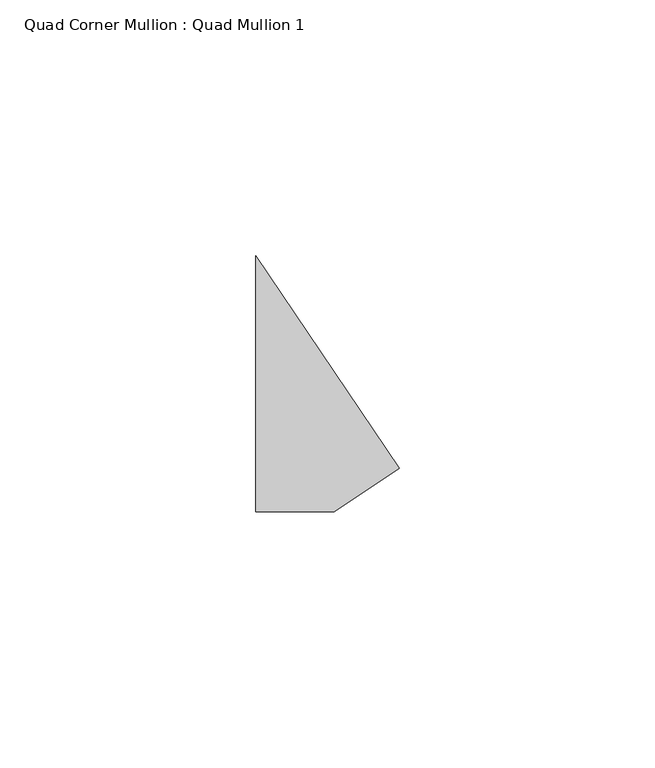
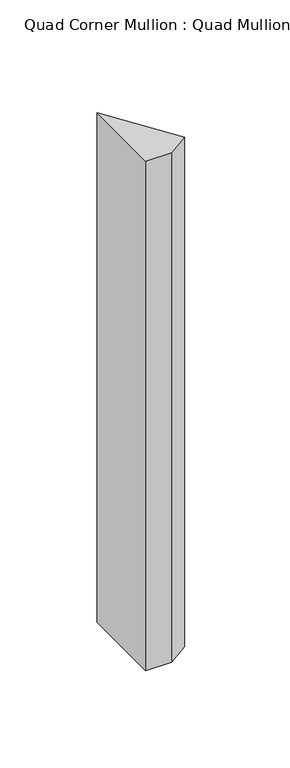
"""IFC4 building model written with IfcOpenShell, lengths in millimetres: member geometry, Quad Corner Mullion : Quad Mullion 1."""

from ifc_helpers import new_model, si_unit, frame, origin, place, context, project, spatial, polyline, outline, extrude, source, transform, mapped, element, save


def quad_corner_mullion_quad_mullion_1_42309c70(model_context):
    return source(origin(), model_context, "Body", "SweptSolid", [
        extrude(outline(polyline([(20.3163781, -16.4518786), (7.643267, -25.0), (-7.643267, -25.0), (-7.643267, 25.0), (20.3163781, -16.4518786)])), frame((0.0, 0.0, -320.0), z_axis=(0.0, 0.0, 1.0), x_axis=(1.0, 0.0, 0.0)), (0.0, 0.0, 1.0), 320.0),
    ])


if __name__ == "__main__":
    model = new_model("IFC4")
    model_context = context("Model", 3, world=origin())
    ifc_project = project(units=[si_unit("LENGTHUNIT", "METRE", prefix="MILLI")], contexts=[model_context])
    site = spatial("IfcSite", under=ifc_project)
    building = spatial("IfcBuilding", under=site)
    placement = place(None, origin())
    quad_corner_mullion_quad_mullion_1_shape = quad_corner_mullion_quad_mullion_1_42309c70(model_context)
    element("IfcMember", 1, ObjectType="Quad Corner Mullion : Quad Mullion 1", at=placement, inside=building, context=model_context, shape_type="MappedRepresentation", body=[
        mapped(quad_corner_mullion_quad_mullion_1_shape, transform((0.0, 0.0, 0.0), x_axis=(1.0, 0.0, 0.0), y_axis=(0.0, 1.0, 0.0), z_axis=(0.0, 0.0, 1.0))),
    ])
    save(model, "model.ifc")
